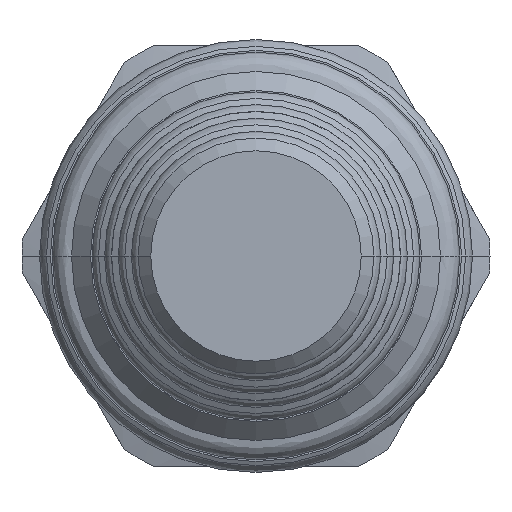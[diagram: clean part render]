
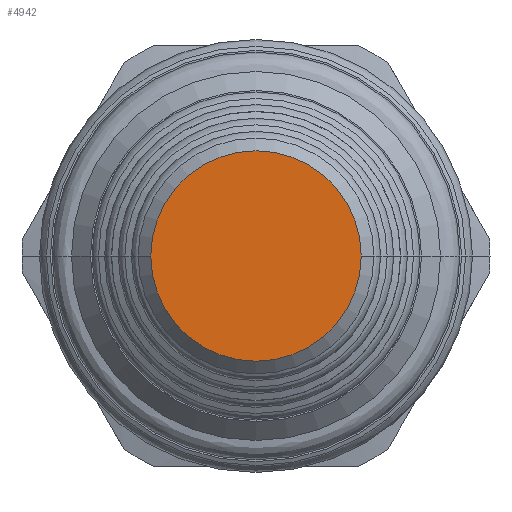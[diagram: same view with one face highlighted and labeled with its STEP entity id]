
A CAD part, front view. The second image highlights one B-rep face of the part: STEP entity #4942.
In plain terms, the highlighted planar face has unit normal (0, -1, 0).
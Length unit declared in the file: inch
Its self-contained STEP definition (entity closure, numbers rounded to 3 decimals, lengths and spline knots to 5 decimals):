
#1886=CARTESIAN_POINT('',(0.,-3.063,0.));
#1887=DIRECTION('',(0.,1.,0.));
#1888=DIRECTION('',(1.,0.,0.));
#1889=AXIS2_PLACEMENT_3D('',#1886,#1887,#1888);
#1900=CARTESIAN_POINT('',(0.,-3.063,0.));
#1901=DIRECTION('',(0.,-1.,0.));
#1902=DIRECTION('',(1.,0.,0.));
#1903=AXIS2_PLACEMENT_3D('',#1900,#1901,#1902);
#2111=CARTESIAN_POINT('',(0.2495,-3.063,0.));
#2112=CARTESIAN_POINT('',(-0.2495,-3.063,0.));
#2113=VERTEX_POINT('',#2111);
#2114=VERTEX_POINT('',#2112);
#4933=CARTESIAN_POINT('',(0.,-3.063,0.));
#4934=DIRECTION('',(0.,-1.,0.));
#4935=DIRECTION('',(-1.,0.,0.));
#4936=AXIS2_PLACEMENT_3D('',#4933,#4934,#4935);
#4937=PLANE('',#4936);
#4938=ORIENTED_EDGE('',*,*,#4913,.T.);
#4939=ORIENTED_EDGE('',*,*,#4927,.F.);
#4940=EDGE_LOOP('',(#4938,#4939));
#4941=FACE_OUTER_BOUND('',#4940,.F.);
#4942=ADVANCED_FACE('',(#4941),#4937,.T.);
#1890=CIRCLE('',#1889,0.2495);
#1904=CIRCLE('',#1903,0.2495);
#4913=EDGE_CURVE('',#2113,#2114,#1890,.T.);
#4927=EDGE_CURVE('',#2113,#2114,#1904,.T.);
